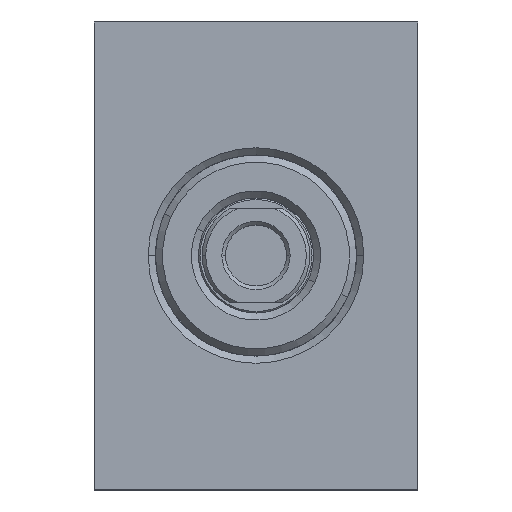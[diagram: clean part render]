
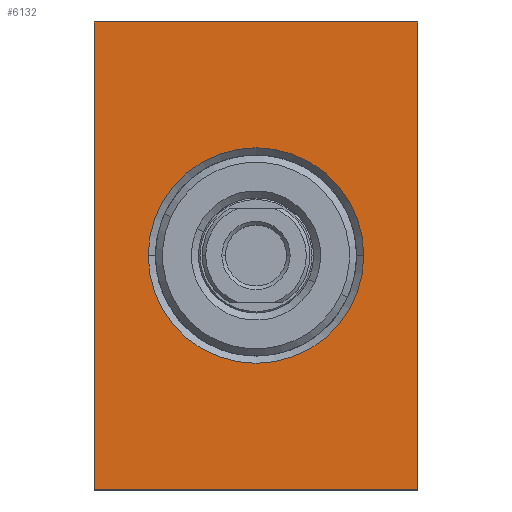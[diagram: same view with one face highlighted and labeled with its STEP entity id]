
A CAD part, top view. The second image highlights one B-rep face of the part: STEP entity #6132.
In plain terms, the highlighted planar face has unit normal (0, 0, 1).
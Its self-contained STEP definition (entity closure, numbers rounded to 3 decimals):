
#85 = CARTESIAN_POINT ( 'NONE',  ( 45., 65., 74. ) ) ;
#175 = CARTESIAN_POINT ( 'NONE',  ( 0., 0., 74. ) ) ;
#475 = CARTESIAN_POINT ( 'NONE',  ( 45., 0., 74. ) ) ;
#539 = ORIENTED_EDGE ( 'NONE', *, *, #1281, .T. ) ;
#600 = EDGE_CURVE ( 'NONE', #7248, #3928, #7367, .T. ) ;
#651 = AXIS2_PLACEMENT_3D ( 'NONE', #175, #8767, #8060 ) ;
#900 = AXIS2_PLACEMENT_3D ( 'NONE', #3837, #6173, #4662 ) ;
#942 = ORIENTED_EDGE ( 'NONE', *, *, #1148, .T. ) ;
#1051 = VERTEX_POINT ( 'NONE', #475 ) ;
#1148 = EDGE_CURVE ( 'NONE', #3928, #3211, #7591, .T. ) ;
#1249 = EDGE_CURVE ( 'NONE', #2862, #6988, #4134, .T. ) ;
#1281 = EDGE_CURVE ( 'NONE', #6988, #2862, #3900, .T. ) ;
#1666 = EDGE_CURVE ( 'NONE', #1051, #7248, #5981, .T. ) ;
#1678 = VECTOR ( 'NONE', #8313, 1000. ) ;
#1748 = ORIENTED_EDGE ( 'NONE', *, *, #4263, .T. ) ;
#2041 = CARTESIAN_POINT ( 'NONE',  ( 0., 0., 74. ) ) ;
#2329 = DIRECTION ( 'NONE',  ( -1., 0., 0. ) ) ;
#2532 = PLANE ( 'NONE',  #651 ) ;
#2807 = CARTESIAN_POINT ( 'NONE',  ( 0., 0., 74. ) ) ;
#2862 = VERTEX_POINT ( 'NONE', #3918 ) ;
#2902 = VECTOR ( 'NONE', #7244, 1000. ) ;
#3211 = VERTEX_POINT ( 'NONE', #2041 ) ;
#3282 = ORIENTED_EDGE ( 'NONE', *, *, #1666, .T. ) ;
#3837 = CARTESIAN_POINT ( 'NONE',  ( 22.5, 32.5, 74. ) ) ;
#3842 = ORIENTED_EDGE ( 'NONE', *, *, #1249, .T. ) ;
#3900 = CIRCLE ( 'NONE', #6212, 15. ) ;
#3918 = CARTESIAN_POINT ( 'NONE',  ( 37.5, 32.5, 74. ) ) ;
#3928 = VERTEX_POINT ( 'NONE', #8109 ) ;
#4134 = CIRCLE ( 'NONE', #900, 15. ) ;
#4263 = EDGE_CURVE ( 'NONE', #3211, #1051, #4340, .T. ) ;
#4340 = LINE ( 'NONE', #6255, #5096 ) ;
#4477 = CARTESIAN_POINT ( 'NONE',  ( 7.5, 32.5, 74. ) ) ;
#4662 = DIRECTION ( 'NONE',  ( -1., 0., 0. ) ) ;
#5096 = VECTOR ( 'NONE', #7851, 1000. ) ;
#5565 = FACE_OUTER_BOUND ( 'NONE', #9867, .T. ) ;
#5981 = LINE ( 'NONE', #9013, #1678 ) ;
#6028 = DIRECTION ( 'NONE',  ( 0., -1., 0. ) ) ;
#6132 = ADVANCED_FACE ( 'NONE', ( #10287, #5565 ), #2532, .F. ) ;
#6173 = DIRECTION ( 'NONE',  ( 0., 0., -1. ) ) ;
#6212 = AXIS2_PLACEMENT_3D ( 'NONE', #6548, #6516, #2329 ) ;
#6255 = CARTESIAN_POINT ( 'NONE',  ( 0., 0., 74. ) ) ;
#6516 = DIRECTION ( 'NONE',  ( 0., 0., -1. ) ) ;
#6548 = CARTESIAN_POINT ( 'NONE',  ( 22.5, 32.5, 74. ) ) ;
#6759 = EDGE_LOOP ( 'NONE', ( #3842, #539 ) ) ;
#6988 = VERTEX_POINT ( 'NONE', #4477 ) ;
#7244 = DIRECTION ( 'NONE',  ( -1., 0., 0. ) ) ;
#7248 = VERTEX_POINT ( 'NONE', #85 ) ;
#7367 = LINE ( 'NONE', #8119, #2902 ) ;
#7591 = LINE ( 'NONE', #2807, #9837 ) ;
#7851 = DIRECTION ( 'NONE',  ( 1., 0., 0. ) ) ;
#8060 = DIRECTION ( 'NONE',  ( -1., 0., 0. ) ) ;
#8109 = CARTESIAN_POINT ( 'NONE',  ( 0., 65., 74. ) ) ;
#8119 = CARTESIAN_POINT ( 'NONE',  ( 0., 65., 74. ) ) ;
#8313 = DIRECTION ( 'NONE',  ( 0., 1., 0. ) ) ;
#8767 = DIRECTION ( 'NONE',  ( 0., 0., -1. ) ) ;
#8838 = ORIENTED_EDGE ( 'NONE', *, *, #600, .T. ) ;
#9013 = CARTESIAN_POINT ( 'NONE',  ( 45., 0., 74. ) ) ;
#9837 = VECTOR ( 'NONE', #6028, 1000. ) ;
#9867 = EDGE_LOOP ( 'NONE', ( #942, #1748, #3282, #8838 ) ) ;
#10287 = FACE_BOUND ( 'NONE', #6759, .T. ) ;
